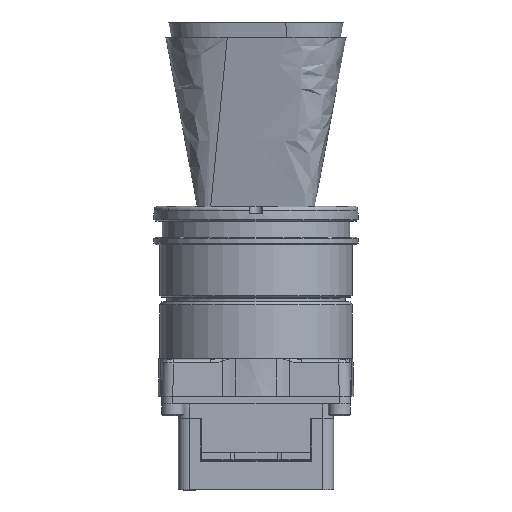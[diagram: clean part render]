
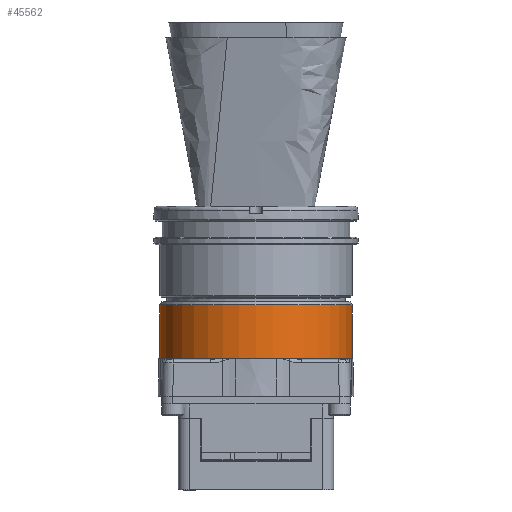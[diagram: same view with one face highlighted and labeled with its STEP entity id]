
A CAD part, front view. The second image highlights one B-rep face of the part: STEP entity #45562.
In plain terms, the highlighted cylindrical face has radius 13 mm (diameter 26 mm), a partial arc.
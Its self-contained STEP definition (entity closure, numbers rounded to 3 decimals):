
#2764 = CARTESIAN_POINT ( 'NONE',  ( -13., 0., 3.1 ) ) ;
#6387 = VERTEX_POINT ( 'NONE', #23333 ) ;
#8127 = CARTESIAN_POINT ( 'NONE',  ( -13., 0., 3.1 ) ) ;
#9644 = AXIS2_PLACEMENT_3D ( 'NONE', #12785, #42372, #55096 ) ;
#11219 = AXIS2_PLACEMENT_3D ( 'NONE', #129851, #142527, #114804 ) ;
#12785 = CARTESIAN_POINT ( 'NONE',  ( 0., 0., 10.367 ) ) ;
#13323 = EDGE_CURVE ( 'NONE', #100583, #6387, #120918, .T. ) ;
#15281 = ORIENTED_EDGE ( 'NONE', *, *, #122409, .T. ) ;
#16753 = CIRCLE ( 'NONE', #11219, 13. ) ;
#23333 = CARTESIAN_POINT ( 'NONE',  ( 13., 0., 10.367 ) ) ;
#30175 = CIRCLE ( 'NONE', #9644, 13. ) ;
#42372 = DIRECTION ( 'NONE',  ( 0., 0., -1. ) ) ;
#45562 = ADVANCED_FACE ( 'NONE', ( #100037 ), #80555, .T. ) ;
#54492 = DIRECTION ( 'NONE',  ( 0., 0., 1. ) ) ;
#55096 = DIRECTION ( 'NONE',  ( 1., 0., 0. ) ) ;
#80555 = CYLINDRICAL_SURFACE ( 'NONE', #115468, 13. ) ;
#86143 = DIRECTION ( 'NONE',  ( 0., 0., 1. ) ) ;
#99572 = CARTESIAN_POINT ( 'NONE',  ( 13., 0., 3.1 ) ) ;
#100037 = FACE_OUTER_BOUND ( 'NONE', #121274, .T. ) ;
#100583 = VERTEX_POINT ( 'NONE', #165401 ) ;
#106440 = LINE ( 'NONE', #2764, #123690 ) ;
#108632 = ORIENTED_EDGE ( 'NONE', *, *, #13323, .T. ) ;
#111163 = ORIENTED_EDGE ( 'NONE', *, *, #139636, .F. ) ;
#114804 = DIRECTION ( 'NONE',  ( 1., 0., 0. ) ) ;
#115468 = AXIS2_PLACEMENT_3D ( 'NONE', #150632, #54492, #139642 ) ;
#120918 = LINE ( 'NONE', #99572, #125223 ) ;
#121274 = EDGE_LOOP ( 'NONE', ( #111163, #15281, #108632, #138579 ) ) ;
#122409 = EDGE_CURVE ( 'NONE', #164672, #100583, #16753, .T. ) ;
#123443 = VERTEX_POINT ( 'NONE', #132258 ) ;
#123690 = VECTOR ( 'NONE', #86143, 1000. ) ;
#125223 = VECTOR ( 'NONE', #129148, 1000. ) ;
#129148 = DIRECTION ( 'NONE',  ( 0., 0., 1. ) ) ;
#129851 = CARTESIAN_POINT ( 'NONE',  ( 0., 0., 3.1 ) ) ;
#132258 = CARTESIAN_POINT ( 'NONE',  ( -13., 0., 10.367 ) ) ;
#133772 = EDGE_CURVE ( 'NONE', #6387, #123443, #30175, .T. ) ;
#138579 = ORIENTED_EDGE ( 'NONE', *, *, #133772, .T. ) ;
#139636 = EDGE_CURVE ( 'NONE', #164672, #123443, #106440, .T. ) ;
#139642 = DIRECTION ( 'NONE',  ( 1., 0., 0. ) ) ;
#142527 = DIRECTION ( 'NONE',  ( 0., 0., 1. ) ) ;
#150632 = CARTESIAN_POINT ( 'NONE',  ( 0., 0., 3.1 ) ) ;
#164672 = VERTEX_POINT ( 'NONE', #8127 ) ;
#165401 = CARTESIAN_POINT ( 'NONE',  ( 13., 0., 3.1 ) ) ;
